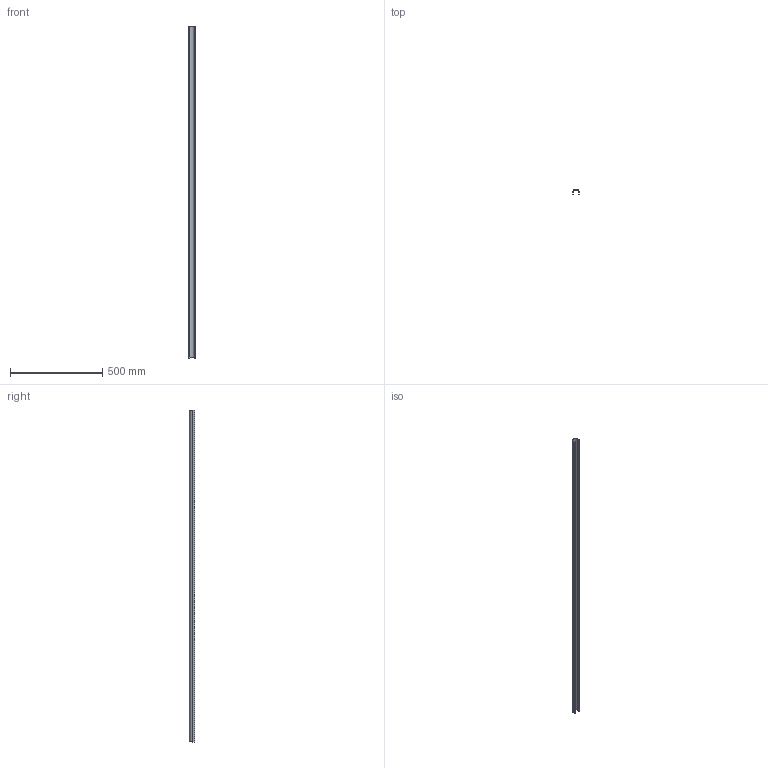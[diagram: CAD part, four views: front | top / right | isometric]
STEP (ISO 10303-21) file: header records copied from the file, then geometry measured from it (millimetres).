
FILE_DESCRIPTION((''),'2;1');
FILE_NAME('16206626_LINEAR-COVER-SY','2015-01-19T',('bernhard.fink'),(''),'PRO/ENGINEER BY PARAMETRIC TECHNOLOGY CORPORATION, 2014000','PRO/ENGINEER BY PARAMETRIC TECHNOLOGY CORPORATION, 2014000','');
FILE_SCHEMA(('AUTOMOTIVE_DESIGN { 1 0 10303 214 1 1 1 1 }'));
Length unit declared in the file: millimetre
Products named in the file (1): 16206626_LINEAR-COVER-SY
Bounding box: 35 x 28.6 x 1800 mm (x, y, z)
Volume: 256370.6 mm3; surface area: 296686.6 mm2
Topology: 1 solids, 1 shells, 24 faces, 66 edges, 44 vertices
Faces by surface type: cylinder 12, plane 12
Entity records: 1375 total; most frequent: CARTESIAN_POINT 158, ORIENTED_EDGE 132, DIRECTION 130, PRESENTATION_STYLE_ASSIGNMENT 67, STYLED_ITEM 67, CURVE_STYLE 66, COLOUR_RGB 66, EDGE_CURVE 66
